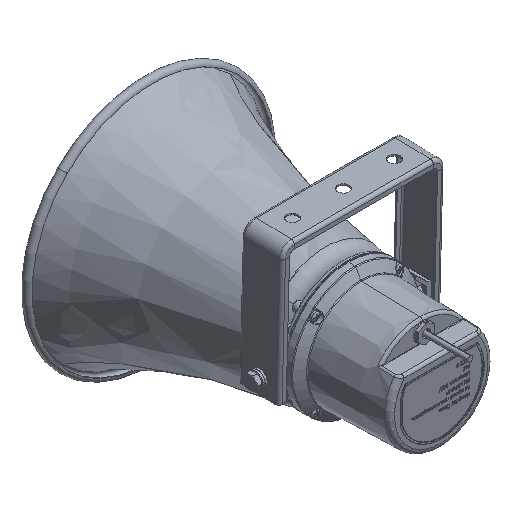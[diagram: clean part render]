
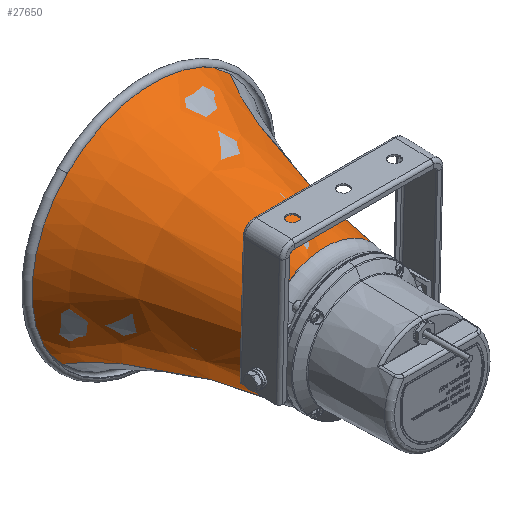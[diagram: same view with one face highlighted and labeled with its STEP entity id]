
A CAD part, isometric view. The second image highlights one B-rep face of the part: STEP entity #27650.
In plain terms, the highlighted free-form (B-spline) face has degree [2, 3] with [3, 4] control points.
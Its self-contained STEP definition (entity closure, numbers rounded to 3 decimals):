
#794 = EDGE_CURVE ( 'NONE', #5302, #26889, #29038, .T. ) ;
#2552 = VERTEX_POINT ( 'NONE', #46013 ) ;
#3785 = CARTESIAN_POINT ( 'NONE',  ( 116., 186., 232. ) ) ;
#5302 = VERTEX_POINT ( 'NONE', #51359 ) ;
#7843 = ORIENTED_EDGE ( 'NONE', *, *, #794, .T. ) ;
#8720 = CARTESIAN_POINT ( 'NONE',  ( 63.953, 11.112, 127.906 ) ) ;
#9029 = CARTESIAN_POINT ( 'NONE',  ( 116., 186., 0. ) ) ;
#9694 = CARTESIAN_POINT ( 'NONE',  ( 72.571, 127.267, 145.141 ) ) ;
#11746 = ORIENTED_EDGE ( 'NONE', *, *, #19898, .T. ) ;
#12218 = VERTEX_POINT ( 'NONE', #47564 ) ;
#14645 = CARTESIAN_POINT ( 'NONE',  ( 72.571, 127.267, 0. ) ) ;
#15551 = EDGE_LOOP ( 'NONE', ( #11746, #7843, #51241, #47603, #37015, #51110 ) ) ;
#16235 = CARTESIAN_POINT ( 'NONE',  ( 0., 11.112, 0. ) ) ;
#19887 = CARTESIAN_POINT ( 'NONE',  ( -63.953, 11.112, 0. ) ) ;
#19898 = EDGE_CURVE ( 'NONE', #49110, #5302, #38853, .T. ) ;
#20077 = VERTEX_POINT ( 'NONE', #44341 ) ;
#21430 = CARTESIAN_POINT ( 'NONE',  ( 0., 186., 0. ) ) ;
#21572 = CARTESIAN_POINT ( 'NONE',  ( 63.953, 11.112, 0. ) ) ;
#23555 = CARTESIAN_POINT ( 'NONE',  ( -116., 186., 0. ) ) ;
#23877 = FACE_OUTER_BOUND ( 'NONE', #15551, .T. ) ;
#24271 = AXIS2_PLACEMENT_3D ( 'NONE', #16235, #36324, #51149 ) ;
#25534 = CARTESIAN_POINT ( 'NONE',  ( 0., 11.112, 0. ) ) ;
#26501 = CARTESIAN_POINT ( 'NONE',  ( 116., 186., 0. ) ) ;
#26889 = VERTEX_POINT ( 'NONE', #35678 ) ;
#27650 = ADVANCED_FACE ( 'NONE', ( #23877 ), #27878, .F. ) ;
#27878 =( BOUNDED_SURFACE ( )  B_SPLINE_SURFACE ( 2, 3, ( 
 ( #9029, #3785, #65000, #23555 ),
 ( #14645, #9694, #54486, #64678 ),
 ( #29126, #8720, #39352, #19887 ) ),
 .UNSPECIFIED., .F., .F., .F. ) 
 B_SPLINE_SURFACE_WITH_KNOTS ( ( 3, 3 ),
 ( 4, 4 ),
 ( 0., 0.911 ),
 ( 0., 1. ),
 .UNSPECIFIED. ) 
 GEOMETRIC_REPRESENTATION_ITEM ( )  RATIONAL_B_SPLINE_SURFACE ( (
 ( 1., 0.333, 0.333, 1.),
 ( 0.514, 0.171, 0.171, 0.514),
 ( 0.914, 0.305, 0.305, 0.914) ) ) 
 REPRESENTATION_ITEM ( '' )  SURFACE ( )  );
#28029 = DIRECTION ( 'NONE',  ( 0., 0., -1. ) ) ;
#29038 =( BOUNDED_CURVE ( )  B_SPLINE_CURVE ( 2, ( #49748, #53698, #64216 ),
 .UNSPECIFIED., .F., .F. ) 
 B_SPLINE_CURVE_WITH_KNOTS ( ( 3, 3 ),
 ( 0., 0.911 ),
 .UNSPECIFIED. ) 
 CURVE ( )  GEOMETRIC_REPRESENTATION_ITEM ( )  RATIONAL_B_SPLINE_CURVE ( ( 1., 0.514, 0.914 ) ) 
 REPRESENTATION_ITEM ( '' )  );
#29126 = CARTESIAN_POINT ( 'NONE',  ( 63.953, 11.112, 0. ) ) ;
#30408 = AXIS2_PLACEMENT_3D ( 'NONE', #37921, #52732, #28029 ) ;
#34792 = AXIS2_PLACEMENT_3D ( 'NONE', #25534, #35744, #55811 ) ;
#35678 = CARTESIAN_POINT ( 'NONE',  ( -63.953, 11.112, 0. ) ) ;
#35744 = DIRECTION ( 'NONE',  ( 0., 1., 0. ) ) ;
#36324 = DIRECTION ( 'NONE',  ( 0., 1., 0. ) ) ;
#36593 = DIRECTION ( 'NONE',  ( 0., 0., -1. ) ) ;
#36876 = CIRCLE ( 'NONE', #24271, 63.953 ) ;
#37015 = ORIENTED_EDGE ( 'NONE', *, *, #55902, .F. ) ;
#37921 = CARTESIAN_POINT ( 'NONE',  ( 0., 186., 0. ) ) ;
#38853 = CIRCLE ( 'NONE', #30408, 116. ) ;
#39352 = CARTESIAN_POINT ( 'NONE',  ( -63.953, 11.112, 127.906 ) ) ;
#39994 = EDGE_CURVE ( 'NONE', #26889, #20077, #63218, .T. ) ;
#41410 = EDGE_CURVE ( 'NONE', #20077, #2552, #36876, .T. ) ;
#44341 = CARTESIAN_POINT ( 'NONE',  ( 0., 11.112, 63.953 ) ) ;
#46013 = CARTESIAN_POINT ( 'NONE',  ( 63.953, 11.112, 0. ) ) ;
#47564 = CARTESIAN_POINT ( 'NONE',  ( 116., 186., 0. ) ) ;
#47603 = ORIENTED_EDGE ( 'NONE', *, *, #41410, .T. ) ;
#49110 = VERTEX_POINT ( 'NONE', #55859 ) ;
#49748 = CARTESIAN_POINT ( 'NONE',  ( -116., 186., 0. ) ) ;
#51110 = ORIENTED_EDGE ( 'NONE', *, *, #52933, .T. ) ;
#51149 = DIRECTION ( 'NONE',  ( 0., 0., -1. ) ) ;
#51241 = ORIENTED_EDGE ( 'NONE', *, *, #39994, .T. ) ;
#51359 = CARTESIAN_POINT ( 'NONE',  ( -116., 186., 0. ) ) ;
#51654 =( BOUNDED_CURVE ( )  B_SPLINE_CURVE ( 2, ( #26501, #62069, #21572 ),
 .UNSPECIFIED., .F., .F. ) 
 B_SPLINE_CURVE_WITH_KNOTS ( ( 3, 3 ),
 ( 0., 0.911 ),
 .UNSPECIFIED. ) 
 CURVE ( )  GEOMETRIC_REPRESENTATION_ITEM ( )  RATIONAL_B_SPLINE_CURVE ( ( 1., 0.514, 0.914 ) ) 
 REPRESENTATION_ITEM ( '' )  );
#51767 = AXIS2_PLACEMENT_3D ( 'NONE', #21430, #56323, #36593 ) ;
#52732 = DIRECTION ( 'NONE',  ( 0., -1., 0. ) ) ;
#52933 = EDGE_CURVE ( 'NONE', #12218, #49110, #57001, .T. ) ;
#53698 = CARTESIAN_POINT ( 'NONE',  ( -72.571, 127.267, 0. ) ) ;
#54486 = CARTESIAN_POINT ( 'NONE',  ( -72.571, 127.267, 145.141 ) ) ;
#55811 = DIRECTION ( 'NONE',  ( 0., 0., -1. ) ) ;
#55859 = CARTESIAN_POINT ( 'NONE',  ( 0., 186., 116. ) ) ;
#55902 = EDGE_CURVE ( 'NONE', #12218, #2552, #51654, .T. ) ;
#56323 = DIRECTION ( 'NONE',  ( 0., -1., 0. ) ) ;
#57001 = CIRCLE ( 'NONE', #51767, 116. ) ;
#62069 = CARTESIAN_POINT ( 'NONE',  ( 72.571, 127.267, 0. ) ) ;
#63218 = CIRCLE ( 'NONE', #34792, 63.953 ) ;
#64216 = CARTESIAN_POINT ( 'NONE',  ( -63.953, 11.112, 0. ) ) ;
#64678 = CARTESIAN_POINT ( 'NONE',  ( -72.571, 127.267, 0. ) ) ;
#65000 = CARTESIAN_POINT ( 'NONE',  ( -116., 186., 232. ) ) ;
